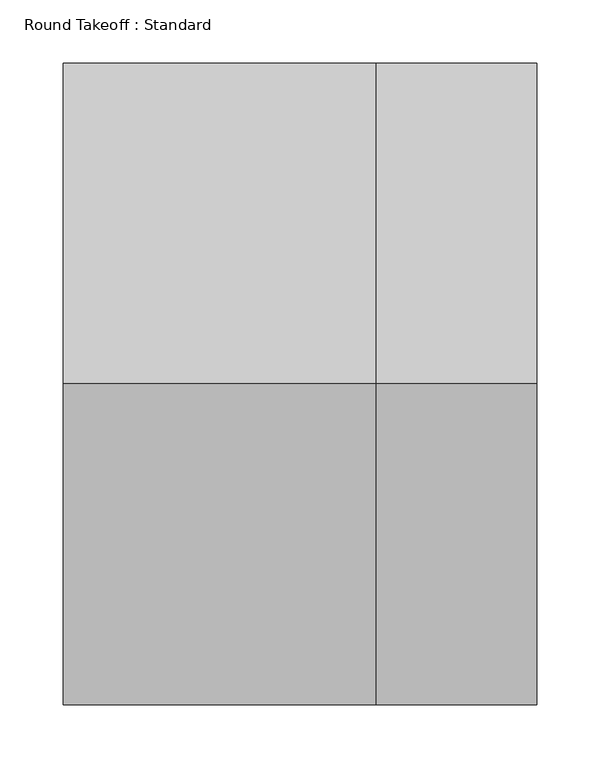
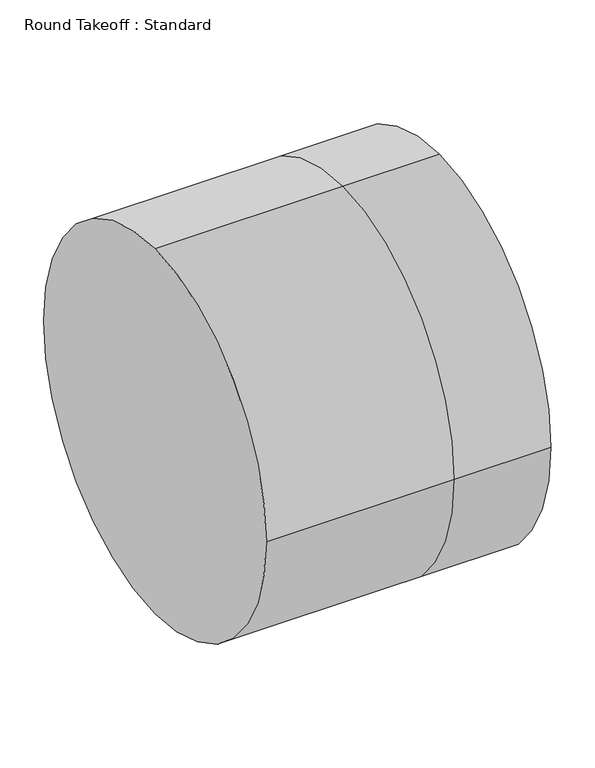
"""IFC4 building model written with IfcOpenShell, lengths in millimetres: duct fitting geometry, Round Takeoff : Standard."""

import ifcopenshell
import ifcopenshell.guid

model = None  # the IFC model being written
_history = None  # IfcOwnerHistory: only IFC2X3 demands one
_inside = {}  # id of a spatial element -> (the spatial element, [elements in it])
_under = {}  # id of a project, library or spatial element -> (it, [spatial elements below it])
_declared = {}  # id of a project -> (the project, [libraries it declares])
_typed = {}  # id of a type object -> (the type object, [elements of that type])
_made_of = {}  # id of a material, layer set ... -> (it, [elements and type objects made of it])


def new_model(schema):
    """Start an empty IFC model of exactly this schema.

    Asked for "IFC4X3", IfcOpenShell would pick the latest addendum, in which some entities
    have other attributes; the version numbers below select the first issue.
    IFC2X3 requires an IfcOwnerHistory on every rooted entity: one is made here for all.
    """
    global model, _history
    if schema == "IFC4X3":
        model = ifcopenshell.file(schema_version=(4, 3, 0, 0))
    else:
        model = ifcopenshell.file(schema=schema)
    _inside.clear()
    _under.clear()
    _declared.clear()
    _typed.clear()
    _made_of.clear()
    _history = None
    if model.schema == "IFC2X3":
        org = make("IfcOrganization", Name="unknown")
        user = make(
            "IfcPersonAndOrganization",
            ThePerson=make("IfcPerson", FamilyName="unknown"),
            TheOrganization=org,
        )
        app = make(
            "IfcApplication",
            ApplicationDeveloper=org,
            Version="unknown",
            ApplicationFullName="unknown",
            ApplicationIdentifier="unknown",
        )
        _history = make(
            "IfcOwnerHistory",
            OwningUser=user,
            OwningApplication=app,
            ChangeAction="ADDED",
            CreationDate=0,
        )
    return model


def make(cls, **values):
    """One entity of the class cls with the attributes given. An attribute that is None is left unset."""
    return model.create_entity(
        cls, **{name: value for name, value in values.items() if value is not None}
    )


def rooted(cls, **values):
    """An entity with a GlobalId (a new one), such as an element, a storey or a relation."""
    return make(cls, GlobalId=ifcopenshell.guid.new(), OwnerHistory=_history, **values)


def si_unit(unit_type, name, prefix=None):
    """IfcSIUnit, for example si_unit("LENGTHUNIT", "METRE", prefix="MILLI")."""
    return make("IfcSIUnit", UnitType=unit_type, Prefix=prefix, Name=name)


def assignment(units):
    """IfcUnitAssignment: the units of a project."""
    return None if units is None else make("IfcUnitAssignment", Units=units)


def point(xyz):
    """IfcCartesianPoint."""
    return None if xyz is None else make("IfcCartesianPoint", Coordinates=xyz)


def direction(xyz):
    """IfcDirection."""
    return None if xyz is None else make("IfcDirection", DirectionRatios=xyz)


def frame(location, z_axis=None, x_axis=None):
    """IfcAxis2Placement3D, a coordinate frame: its origin and axes. An axis left out is left unset."""
    return make(
        "IfcAxis2Placement3D",
        Location=point(location),
        Axis=direction(z_axis),
        RefDirection=direction(x_axis),
    )


def origin():
    """The frame at (0, 0, 0) with its axes left unset."""
    return frame((0.0, 0.0, 0.0))


def place(relative_to, where):
    """IfcLocalPlacement: puts the frame where relative to a parent placement (None: the world)."""
    return make(
        "IfcLocalPlacement", PlacementRelTo=relative_to, RelativePlacement=where
    )


def context(
    kind, dimensions, precision=None, world=None, true_north=None, identifier=None
):
    """IfcGeometricRepresentationContext, for example the 3D "Model" context."""
    return make(
        "IfcGeometricRepresentationContext",
        ContextIdentifier=identifier,
        ContextType=kind,
        CoordinateSpaceDimension=dimensions,
        Precision=precision,
        WorldCoordinateSystem=world,
        TrueNorth=true_north,
    )


def project(units=None, contexts=None):
    """IfcProject with its units and contexts."""
    return rooted(
        "IfcProject",
        Name="project",
        RepresentationContexts=contexts,
        UnitsInContext=assignment(units),
    )


def spatial(cls, under=None, at=None, **own):
    """A site, building, storey or space (cls), placed at a placement, below another one or the project."""
    s = rooted(cls, ObjectPlacement=at, **own)
    if under is not None:
        _under.setdefault(under.id(), (under, []))[1].append(s)
    return s


def circle_curve(where, radius):
    """IfcCircle in the frame where."""
    return make("IfcCircle", Position=where, Radius=radius)


def shape(context_of_items, identifier, shape_type, items):
    """IfcShapeRepresentation: the items that make up one representation, for example the "Body"."""
    return make(
        "IfcShapeRepresentation",
        ContextOfItems=context_of_items,
        RepresentationIdentifier=identifier,
        RepresentationType=shape_type,
        Items=items,
    )


def source(mapping_origin, context_of_items, identifier, shape_type, items):
    """IfcRepresentationMap: a shape defined once, which mapped items show again and again."""
    return make(
        "IfcRepresentationMap",
        MappingOrigin=mapping_origin,
        MappedRepresentation=shape(context_of_items, identifier, shape_type, items),
    )


def transform(
    local_origin,
    x_axis=None,
    y_axis=None,
    z_axis=None,
    scale=None,
    scale2=None,
    scale3=None,
    uniform=True,
):
    """IfcCartesianTransformationOperator3D, or its non-uniform kind. x_axis, y_axis, z_axis: its Axis1, 2, 3."""
    if uniform:
        return make(
            "IfcCartesianTransformationOperator3D",
            Axis1=direction(x_axis),
            Axis2=direction(y_axis),
            LocalOrigin=point(local_origin),
            Scale=scale,
            Axis3=direction(z_axis),
        )
    return make(
        "IfcCartesianTransformationOperator3DnonUniform",
        Axis1=direction(x_axis),
        Axis2=direction(y_axis),
        LocalOrigin=point(local_origin),
        Scale=scale,
        Axis3=direction(z_axis),
        Scale2=scale2,
        Scale3=scale3,
    )


def mapped(mapping_source, mapping_target):
    """IfcMappedItem: shows the shape of a source again, moved by a transform."""
    return make(
        "IfcMappedItem", MappingSource=mapping_source, MappingTarget=mapping_target
    )


def made_of(thing, what):
    """Note that an element or type object is made of a material, layer set ...; save() writes the relation."""
    if what is not None:
        _made_of.setdefault(what.id(), (what, []))[1].append(thing)
    return thing


def element(
    cls,
    number,
    at=None,
    inside=None,
    cuts=None,
    type_object=None,
    material=None,
    context=None,
    identifier="Body",
    shape_type=None,
    held_by="IfcProductDefinitionShape",
    body=None,
    shapes=None,
    **own,
):
    """One element of the class cls, such as IfcWall. Its Tag is "e" and its number.

    at: its placement. inside: the storey or other place that contains it. cuts: it is an
    opening in that element (IfcRelVoidsElement). A single representation is given by context,
    identifier, shape_type and body (its items); several are given by shapes. held_by: the class
    of the entity that holds the representations. save() writes the other relations.
    """
    e = rooted(cls, Tag="e%d" % number, ObjectPlacement=at, **own)
    if body is not None:
        shapes = [shape(context, identifier, shape_type, body)]
    if shapes is not None:
        e.Representation = make(held_by, Representations=shapes)
    if inside is not None:
        _inside.setdefault(inside.id(), (inside, []))[1].append(e)
    if cuts is not None:
        rooted(
            "IfcRelVoidsElement", RelatingBuildingElement=cuts, RelatedOpeningElement=e
        )
    if type_object is not None:
        _typed.setdefault(type_object.id(), (type_object, []))[1].append(e)
    return made_of(e, material)


def aggregate(whole, parts):
    """IfcRelAggregates: a whole, such as a stair, and the parts it consists of."""
    return rooted("IfcRelAggregates", RelatingObject=whole, RelatedObjects=parts)


def save(model, path):
    """Write the relations noted so far, then the file.

    IfcRelAggregates (storeys below a building ...), IfcRelContainedInSpatialStructure (elements
    in a storey), IfcRelDefinesByType, IfcRelAssociatesMaterial and IfcRelDeclares: one each for
    every whole, place, type object, material and project.
    """
    for whole, parts in _under.values():
        aggregate(whole, parts)
    for where, things in _inside.values():
        rooted(
            "IfcRelContainedInSpatialStructure",
            RelatedElements=things,
            RelatingStructure=where,
        )
    for kind, things in _typed.values():
        rooted("IfcRelDefinesByType", RelatedObjects=things, RelatingType=kind)
    for what, things in _made_of.values():
        rooted("IfcRelAssociatesMaterial", RelatedObjects=things, RelatingMaterial=what)
    for by, libraries in _declared.values():
        rooted("IfcRelDeclares", RelatingContext=by, RelatedDefinitions=libraries)
    model.write(path)


def plane_surface(at):
    """IfcPlane: the flat surface through the origin of the frame at, square to its z axis."""
    return make("IfcPlane", Position=at)


def cylinder_surface(at, radius):
    """IfcCylindricalSurface: all points at the distance radius from the z axis of the frame at."""
    return make("IfcCylindricalSurface", Position=at, Radius=radius)


def advanced_brep(points, edges, surfaces, faces):
    """IfcAdvancedBrep: a solid bounded by faces that lie on surfaces and meet in shared edges.

    An edge is (start, end): straight between two places in points (the first is 0);
    or (start, end, curve); or (start, end, curve, False) where it runs against its curve.
    A face is (place in surfaces, loops), or (place, loops, False) where it looks against
    its surface's normal. A loop lists edges by number (the first is 1), with a minus sign
    where the edge is run from its end to its start. The first loop is the outer one.
    """
    corners = [point(p) for p in points]
    vertices = [make("IfcVertexPoint", VertexGeometry=c) for c in corners]
    made = []
    for start, end, *more in edges:
        made.append(
            make(
                "IfcEdgeCurve",
                EdgeStart=vertices[start],
                EdgeEnd=vertices[end],
                EdgeGeometry=more[0] if more else make("IfcPolyline", Points=[corners[start], corners[end]]),
                SameSense=more[1] if len(more) > 1 else True,
            )
        )
    hull = []
    for where, loops, *sense in faces:
        bounds = []
        for j, loop in enumerate(loops):
            ring = [make("IfcOrientedEdge", EdgeElement=made[abs(k) - 1], Orientation=k > 0) for k in loop]
            bounds.append(
                make(
                    "IfcFaceOuterBound" if j == 0 else "IfcFaceBound",
                    Bound=make("IfcEdgeLoop", EdgeList=ring),
                    Orientation=True,
                )
            )
        hull.append(make("IfcAdvancedFace", Bounds=bounds, FaceSurface=surfaces[where], SameSense=sense[0] if sense else True))
    return make("IfcAdvancedBrep", Outer=make("IfcClosedShell", CfsFaces=hull))


def round_takeoff_standard_6a2d3c00(model_context):
    return source(origin(), model_context, "Body", "AdvancedBrep", [
        advanced_brep(
        [(127.0, 0.0, 254.0), (127.0, -254.0, 0.0), (127.0, 0.0, -254.0), (127.0, 254.0, 0.0), (0.0, 0.0, 254.0), (0.0, -254.0, 0.0), (0.0, 0.0, -254.0), (0.0, 254.0, 0.0), (-247.904, 0.0, 254.0), (-247.904, 254.0, 0.0), (-247.904, 0.0, -254.0), (-247.904, -254.0, 0.0)],
        [
            (0, 1, circle_curve(frame((127.0, 0.0, 0.0), z_axis=(1.0, 0.0, 0.0), x_axis=(0.0, -1.0, 0.0)), 254.0)),
            (1, 2, circle_curve(frame((127.0, 0.0, 0.0), z_axis=(1.0, 0.0, 0.0), x_axis=(0.0, -1.0, 0.0)), 254.0)),
            (2, 3, circle_curve(frame((127.0, 0.0, 0.0), z_axis=(1.0, 0.0, 0.0), x_axis=(0.0, -1.0, 0.0)), 254.0)),
            (3, 0, circle_curve(frame((127.0, 0.0, 0.0), z_axis=(1.0, 0.0, 0.0), x_axis=(0.0, -1.0, 0.0)), 254.0)),
            (0, 4),
            (4, 5, circle_curve(frame((0.0, 0.0, 0.0), z_axis=(1.0, 0.0, 0.0), x_axis=(0.0, -1.0, 0.0)), 254.0)),
            (5, 1),
            (5, 6, circle_curve(frame((0.0, 0.0, 0.0), z_axis=(1.0, 0.0, 0.0), x_axis=(0.0, -1.0, 0.0)), 254.0)),
            (6, 2),
            (6, 7, circle_curve(frame((0.0, 0.0, 0.0), z_axis=(1.0, 0.0, 0.0), x_axis=(0.0, -1.0, 0.0)), 254.0)),
            (7, 3),
            (7, 4, circle_curve(frame((0.0, 0.0, 0.0), z_axis=(1.0, 0.0, 0.0), x_axis=(0.0, -1.0, 0.0)), 254.0)),
            (8, 9, circle_curve(frame((-247.904, 0.0, 0.0), z_axis=(-1.0, 0.0, 0.0), x_axis=(0.0, -1.0, 0.0)), 254.0)),
            (9, 10, circle_curve(frame((-247.904, 0.0, 0.0), z_axis=(-1.0, 0.0, 0.0), x_axis=(0.0, -1.0, 0.0)), 254.0)),
            (10, 11, circle_curve(frame((-247.904, 0.0, 0.0), z_axis=(-1.0, 0.0, 0.0), x_axis=(0.0, -1.0, 0.0)), 254.0)),
            (11, 8, circle_curve(frame((-247.904, 0.0, 0.0), z_axis=(-1.0, 0.0, 0.0), x_axis=(0.0, -1.0, 0.0)), 254.0)),
            (11, 5),
            (4, 8),
            (10, 6),
            (9, 7),
        ],
        [
            plane_surface(frame((127.0, 0.0, 0.0), z_axis=(1.0, 0.0, 0.0), x_axis=(0.0, 0.0, 1.0))),
            cylinder_surface(frame((0.0, 0.0, 0.0), z_axis=(-1.0, 0.0, 0.0), x_axis=(0.0, -1.0, 0.0)), 254.0),
            plane_surface(frame((-247.904, 0.0, 0.0), z_axis=(-1.0, 0.0, 0.0), x_axis=(0.0, 0.0, 1.0))),
            cylinder_surface(frame((-247.904, 0.0, 0.0), z_axis=(-1.0, 0.0, 0.0), x_axis=(0.0, -1.0, 0.0)), 254.0),
        ],
        [
            (0, [[1, 2, 3, 4]]),
            (1, [[5, 6, 7, -1]]),
            (1, [[-7, 8, 9, -2]]),
            (1, [[-9, 10, 11, -3]]),
            (1, [[-11, 12, -5, -4]]),
            (2, [[13, 14, 15, 16]]),
            (3, [[17, -6, 18, -16]]),
            (3, [[19, -8, -17, -15]]),
            (3, [[20, -10, -19, -14]]),
            (3, [[-18, -12, -20, -13]]),
        ],
    ),
    ])


if __name__ == "__main__":
    model = new_model("IFC4")
    model_context = context("Model", 3, world=origin())
    ifc_project = project(units=[si_unit("LENGTHUNIT", "METRE", prefix="MILLI")], contexts=[model_context])
    site = spatial("IfcSite", under=ifc_project)
    building = spatial("IfcBuilding", under=site)
    placement = place(None, origin())
    round_takeoff_standard_shape = round_takeoff_standard_6a2d3c00(model_context)
    element("IfcDuctFitting", 1, ObjectType="Round Takeoff : Standard", at=placement, inside=building, context=model_context, shape_type="MappedRepresentation", body=[
        mapped(round_takeoff_standard_shape, transform((0.0, 0.0, 0.0), x_axis=(1.0, 0.0, 0.0), y_axis=(0.0, 1.0, 0.0), z_axis=(0.0, 0.0, 1.0))),
    ])
    save(model, "model.ifc")
